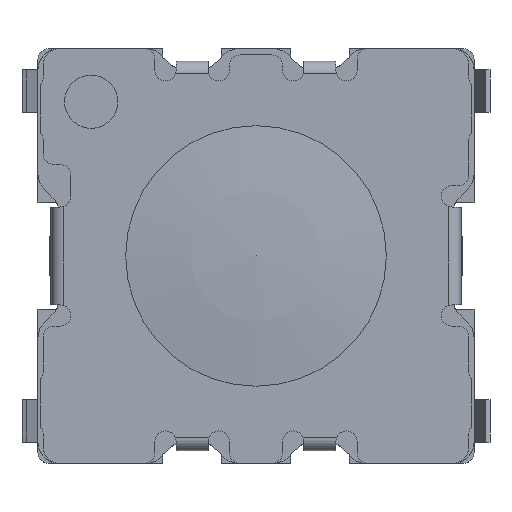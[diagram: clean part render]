
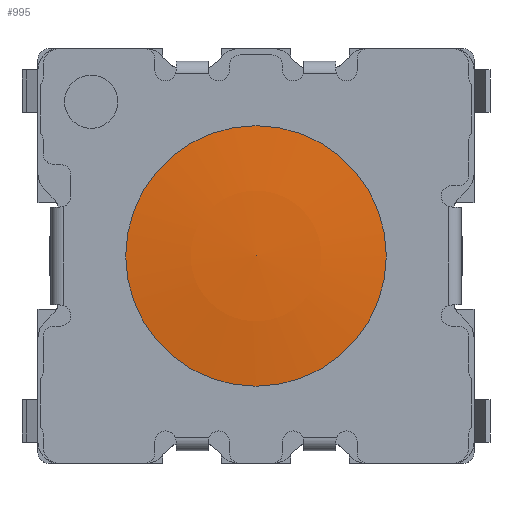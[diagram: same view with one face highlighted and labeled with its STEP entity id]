
A CAD part, top view. The second image highlights one B-rep face of the part: STEP entity #995.
In plain terms, the highlighted spherical face has radius 10.754 mm.
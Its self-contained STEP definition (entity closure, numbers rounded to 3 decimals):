
#995 = ADVANCED_FACE ( 'NONE', ( #14920 ), #14958, .T. ) ;
#996 = EDGE_LOOP ( 'NONE', ( #997, #12314 ) ) ;
#997 = ORIENTED_EDGE ( 'NONE', *, *, #1817, .T. ) ;
#1812 = VERTEX_POINT ( 'NONE', #17377 ) ;
#1814 = VERTEX_POINT ( 'NONE', #17434 ) ;
#1817 = EDGE_CURVE ( 'NONE', #1812, #1814, #17425, .T. ) ;
#2584 = EDGE_CURVE ( 'NONE', #1814, #1812, #4131, .T. ) ;
#4127 = DIRECTION ( 'NONE',  ( 0., 0., -1. ) ) ;
#4128 = DIRECTION ( 'NONE',  ( 0., 1., 0. ) ) ;
#4129 = CARTESIAN_POINT ( 'NONE',  ( 0., 0.56, 0. ) ) ;
#4130 = AXIS2_PLACEMENT_3D ( 'NONE', #4129, #4128, #4127 ) ;
#4131 = CIRCLE ( 'NONE', #4130, 1.225 ) ;
#12314 = ORIENTED_EDGE ( 'NONE', *, *, #2584, .T. ) ;
#14905 = CARTESIAN_POINT ( 'NONE',  ( 0., -10.124, 0. ) ) ;
#14920 = FACE_OUTER_BOUND ( 'NONE', #996, .T. ) ;
#14955 = DIRECTION ( 'NONE',  ( 1., 0., 0. ) ) ;
#14956 = DIRECTION ( 'NONE',  ( 0., 1., 0. ) ) ;
#14957 = AXIS2_PLACEMENT_3D ( 'NONE', #14905, #14956, #14955 ) ;
#14958 = SPHERICAL_SURFACE ( 'NONE', #14957, 10.754 ) ;
#17377 = CARTESIAN_POINT ( 'NONE',  ( 0., 0.56, -1.225 ) ) ;
#17421 = DIRECTION ( 'NONE',  ( 0., 0., -1. ) ) ;
#17422 = DIRECTION ( 'NONE',  ( 0., 1., 0. ) ) ;
#17423 = CARTESIAN_POINT ( 'NONE',  ( 0., 0.56, 0. ) ) ;
#17424 = AXIS2_PLACEMENT_3D ( 'NONE', #17423, #17422, #17421 ) ;
#17425 = CIRCLE ( 'NONE', #17424, 1.225 ) ;
#17434 = CARTESIAN_POINT ( 'NONE',  ( 0., 0.56, 1.225 ) ) ;
